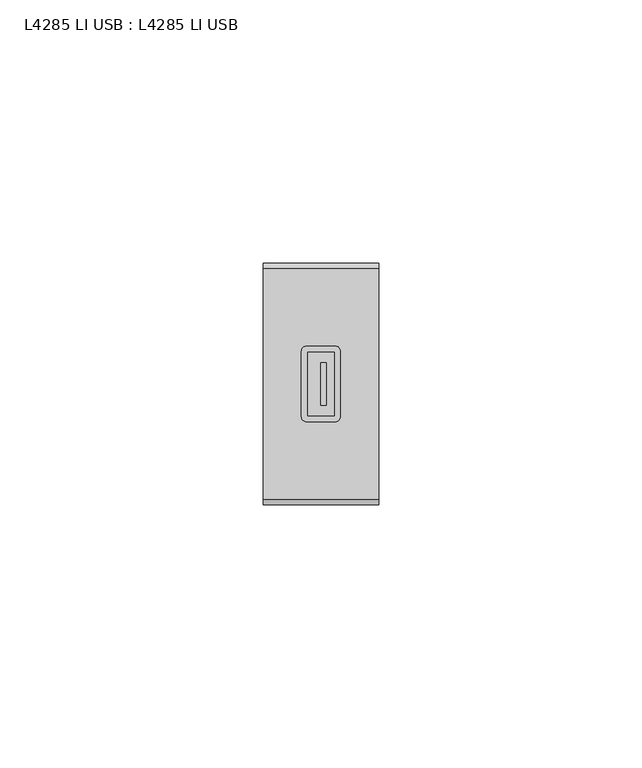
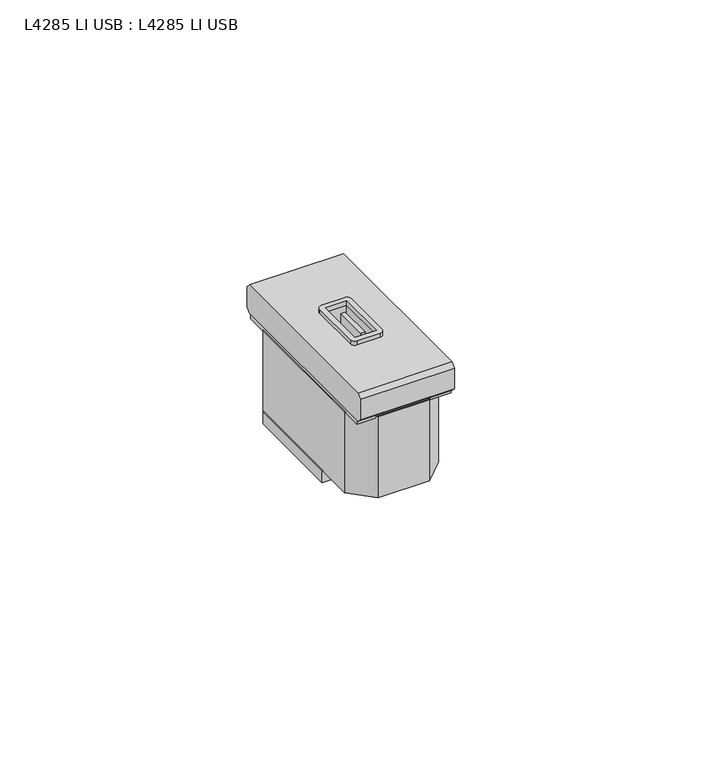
"""IFC4 building model written with IfcOpenShell, lengths in millimetres: proxy geometry, L4285 LI USB : L4285 LI USB."""

from ifc_helpers import new_model, si_unit, point, frame, frame_2d, origin, origin_with_axes, place, context, project, spatial, polyline, circle_curve, trimmed, segment, composite_curve, outline, extrude, faceted_brep, source, transform, mapped, element, save


def l4285_li_usb_l4285_li_usb_a922b814(model_context):
    return source(origin(), model_context, "Body", "SolidModel", [
        extrude(outline(composite_curve([segment(trimmed(circle_curve(frame_2d((2.7, 6.2)), 1.0), [point((2.7, 7.2))], [point((3.7, 6.2))], False, "CARTESIAN"), True, "CONTINUOUS"), segment(polyline([(3.7, 6.2), (3.7, -6.2)]), True, "CONTINUOUS"), segment(trimmed(circle_curve(frame_2d((2.7, -6.2)), 1.0), [point((3.7, -6.2))], [point((2.7, -7.2))], False, "CARTESIAN"), True, "CONTINUOUS"), segment(polyline([(2.7, -7.2), (-2.7, -7.2)]), True, "CONTINUOUS"), segment(trimmed(circle_curve(frame_2d((-2.7, -6.2)), 1.0), [point((-2.7, -7.2))], [point((-3.7, -6.2))], False, "CARTESIAN"), True, "CONTINUOUS"), segment(polyline([(-3.7, -6.2), (-3.7, 6.2)]), True, "CONTINUOUS"), segment(trimmed(circle_curve(frame_2d((-2.7, 6.2)), 1.0), [point((-3.7, 6.2))], [point((-2.7, 7.2))], False, "CARTESIAN"), True, "CONTINUOUS"), segment(polyline([(-2.7, 7.2), (2.7, 7.2)]), True, "CONTINUOUS")], self_intersect=False), holes=[polyline([(2.5, 6.0), (-2.5, 6.0), (-2.5, -6.0), (2.5, -6.0), (2.5, 6.0)])]), frame((0.0, 0.0, 7.979899), z_axis=(0.0, 0.0, 1.0), x_axis=(1.0, 0.0, 0.0)), (0.0, 0.0, 1.0), 1.0433905),
        extrude(outline(polyline([(1.0, 4.0), (1.0, -4.0), (0.0, -4.0), (0.0, 4.0), (1.0, 4.0)])), frame((0.0, 0.0, 1.0), z_axis=(0.0, 0.0, 1.0), x_axis=(1.0, 0.0, 0.0)), (0.0, 0.0, 1.0), 6.979899),
        faceted_brep([(11.0, -22.0, 1.0), (11.0, 22.0, 1.0), (11.0, 22.9899495, 1.9899495), (11.0, 22.9899495, 6.9899495), (11.0, 22.0, 7.979899), (11.0, -22.0, 7.979899), (11.0, -22.9899495, 6.9899495), (11.0, -22.9899495, 1.9899495), (-11.0, -22.0, 1.0), (-11.0, -22.9899495, 1.9899495), (-11.0, -22.9899495, 6.9899495), (-11.0, -22.0, 7.979899), (-11.0, 22.0, 7.979899), (-11.0, 22.9899495, 6.9899495), (-11.0, 22.9899495, 1.9899495), (-11.0, 22.0, 1.0), (2.5, -6.0, 1.0), (2.5, 6.0, 1.0), (-2.5, 6.0, 1.0), (-2.5, -6.0, 1.0), (2.5, 6.0, 7.979899), (2.5, -6.0, 7.979899), (-2.5, -6.0, 7.979899), (-2.5, 6.0, 7.979899)], [[[0, 1, 2, 3, 4, 5, 6, 7]], [[8, 9, 10, 11, 12, 13, 14, 15]], [[1, 0, 8, 15], [16, 17, 18, 19]], [[6, 5, 11, 10]], [[7, 6, 10, 9]], [[0, 7, 9, 8]], [[2, 1, 15, 14]], [[3, 2, 14, 13]], [[4, 3, 13, 12]], [[5, 4, 12, 11], [20, 21, 22, 23]], [[20, 17, 16, 21]], [[17, 20, 23, 18]], [[18, 23, 22, 19]], [[21, 16, 19, 22]]]),
        extrude(outline(polyline([(-11.0, -7.5), (-11.0, 16.5), (-9.0, 18.5), (9.0, 18.5), (11.0, 16.5), (11.0, -7.5), (-11.0, -7.5)])), frame((0.0, 0.0, -23.0), z_axis=(0.0, 0.0, 1.0), x_axis=(1.0, 0.0, 0.0)), (0.0, 0.0, 1.0), 3.0),
        extrude(outline(polyline([(11.0, -16.5), (6.0, -21.5), (-6.0, -21.5), (-11.0, -16.5), (-11.0, 16.5), (-6.0, 21.5), (6.0, 21.5), (11.0, 16.5), (11.0, -16.5)])), frame((0.0, 0.0, -20.0), z_axis=(0.0, 0.0, 1.0), x_axis=(1.0, 0.0, 0.0)), (0.0, 0.0, 1.0), 20.0),
        extrude(outline(polyline([(11.0, -21.5), (-11.0, -21.5), (-11.0, 21.5), (11.0, 21.5), (11.0, -21.5)])), origin_with_axes(), (0.0, 0.0, 1.0), 1.0),
    ])


if __name__ == "__main__":
    model = new_model("IFC4")
    model_context = context("Model", 3, world=origin())
    ifc_project = project(units=[si_unit("LENGTHUNIT", "METRE", prefix="MILLI")], contexts=[model_context])
    site = spatial("IfcSite", under=ifc_project)
    building = spatial("IfcBuilding", under=site)
    placement = place(None, origin())
    l4285_li_usb_l4285_li_usb_shape = l4285_li_usb_l4285_li_usb_a922b814(model_context)
    element("IfcBuildingElementProxy", 1, Name="L4285 LI USB : L4285 LI USB", ObjectType="L4285 LI USB : L4285 LI USB", at=placement, inside=building, context=model_context, shape_type="MappedRepresentation", body=[
        mapped(l4285_li_usb_l4285_li_usb_shape, transform((0.0, 0.0, 0.0), x_axis=(1.0, 0.0, 0.0), y_axis=(0.0, 1.0, 0.0), z_axis=(0.0, 0.0, 1.0))),
    ])
    save(model, "model.ifc")
